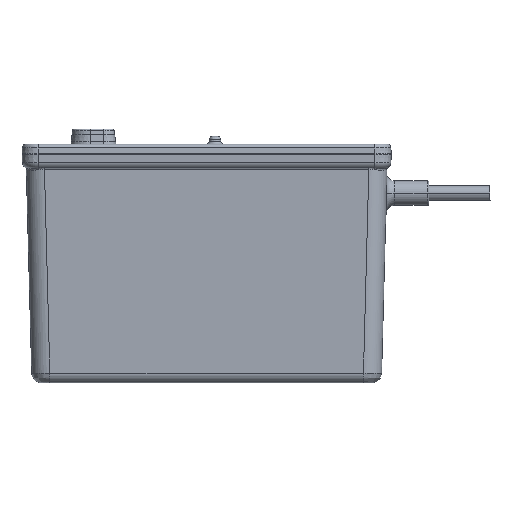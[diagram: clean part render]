
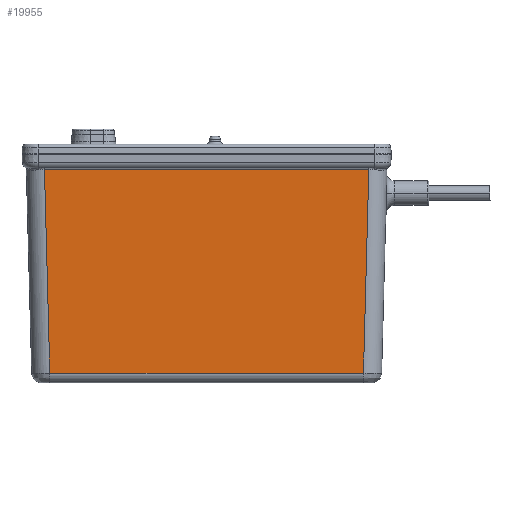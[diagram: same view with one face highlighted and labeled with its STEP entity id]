
A CAD part, left-side view. The second image highlights one B-rep face of the part: STEP entity #19955.
In plain terms, the highlighted planar face has unit normal (-1, 0, -0.026) as drawn and (-1, 0.026, 0) by its records, which use the part's own axes.
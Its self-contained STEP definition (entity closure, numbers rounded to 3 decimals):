
#444 = CARTESIAN_POINT ( 'NONE',  ( -15.695, 6.1, -72.496 ) ) ;
#2103 = CARTESIAN_POINT ( 'NONE',  ( -15.695, 6.1, 6.996 ) ) ;
#3961 = DIRECTION ( 'NONE',  ( 1., -0.026, 0. ) ) ;
#6118 = VERTEX_POINT ( 'NONE', #14064 ) ;
#11990 = ORIENTED_EDGE ( 'NONE', *, *, #33647, .F. ) ;
#12572 = LINE ( 'NONE', #48227, #37328 ) ;
#13187 = VERTEX_POINT ( 'NONE', #444 ) ;
#13989 = CARTESIAN_POINT ( 'NONE',  ( -14.387, 56.065, -71.188 ) ) ;
#14064 = CARTESIAN_POINT ( 'NONE',  ( -15.695, 6.1, 6.996 ) ) ;
#16385 = EDGE_CURVE ( 'NONE', #6118, #41235, #12572, .T. ) ;
#17559 = EDGE_LOOP ( 'NONE', ( #32777, #24163, #51036, #11990 ) ) ;
#18283 = VERTEX_POINT ( 'NONE', #13989 ) ;
#19087 = DIRECTION ( 'NONE',  ( 0., 0., -1. ) ) ;
#19955 = ADVANCED_FACE ( 'NONE', ( #26495 ), #39913, .F. ) ;
#20064 = LINE ( 'NONE', #56268, #49480 ) ;
#24163 = ORIENTED_EDGE ( 'NONE', *, *, #25600, .F. ) ;
#25600 = EDGE_CURVE ( 'NONE', #18283, #41235, #20064, .T. ) ;
#26495 = FACE_OUTER_BOUND ( 'NONE', #17559, .T. ) ;
#26615 = VECTOR ( 'NONE', #54859, 1000. ) ;
#26845 = AXIS2_PLACEMENT_3D ( 'NONE', #39344, #3961, #44312 ) ;
#32777 = ORIENTED_EDGE ( 'NONE', *, *, #16385, .T. ) ;
#33647 = EDGE_CURVE ( 'NONE', #6118, #13187, #46249, .T. ) ;
#33991 = EDGE_CURVE ( 'NONE', #13187, #18283, #52413, .T. ) ;
#34050 = DIRECTION ( 'NONE',  ( 0., 0., 1. ) ) ;
#37030 = CARTESIAN_POINT ( 'NONE',  ( -15.695, 6.1, -72.496 ) ) ;
#37328 = VECTOR ( 'NONE', #43845, 1000. ) ;
#39344 = CARTESIAN_POINT ( 'NONE',  ( -15.7, 5.909, 0. ) ) ;
#39913 = PLANE ( 'NONE',  #26845 ) ;
#41235 = VERTEX_POINT ( 'NONE', #41785 ) ;
#41785 = CARTESIAN_POINT ( 'NONE',  ( -14.387, 56.065, 5.688 ) ) ;
#43845 = DIRECTION ( 'NONE',  ( 0.026, 0.999, -0.026 ) ) ;
#44312 = DIRECTION ( 'NONE',  ( 0., 0., -1. ) ) ;
#46249 = LINE ( 'NONE', #2103, #52701 ) ;
#48227 = CARTESIAN_POINT ( 'NONE',  ( -15.695, 6.1, 6.996 ) ) ;
#49480 = VECTOR ( 'NONE', #34050, 1000. ) ;
#51036 = ORIENTED_EDGE ( 'NONE', *, *, #33991, .F. ) ;
#52413 = LINE ( 'NONE', #37030, #26615 ) ;
#52701 = VECTOR ( 'NONE', #19087, 1000. ) ;
#54859 = DIRECTION ( 'NONE',  ( 0.026, 0.999, 0.026 ) ) ;
#56268 = CARTESIAN_POINT ( 'NONE',  ( -14.387, 56.065, -71.188 ) ) ;
